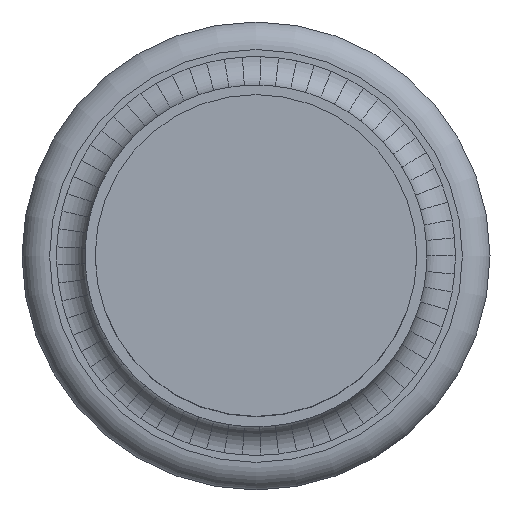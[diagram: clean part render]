
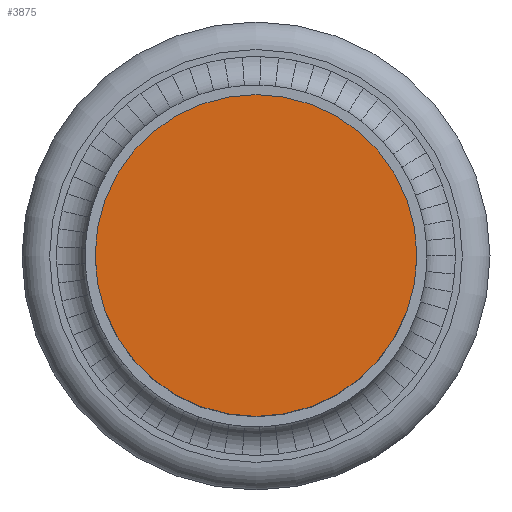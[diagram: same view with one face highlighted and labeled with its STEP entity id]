
A CAD part, top view. The second image highlights one B-rep face of the part: STEP entity #3875.
In plain terms, the highlighted planar face has unit normal (0, 0, 1).
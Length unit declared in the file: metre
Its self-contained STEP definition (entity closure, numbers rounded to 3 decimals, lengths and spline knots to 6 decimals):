
#295=CIRCLE('',#4244,0.00565);
#1409=ORIENTED_EDGE('',*,*,#1966,.T.);
#1966=EDGE_CURVE('',#2316,#2316,#295,.T.);
#2316=VERTEX_POINT('',#6499);
#3365=EDGE_LOOP('',(#1409));
#3586=FACE_BOUND('',#3365,.T.);
#3660=PLANE('',#4246);
#3875=ADVANCED_FACE('',(#3586),#3660,.T.);
#4244=AXIS2_PLACEMENT_3D('',#6498,#5373,#5374);
#4246=AXIS2_PLACEMENT_3D('',#6501,#5377,#5378);
#5373=DIRECTION('',(0.,0.,1.));
#5374=DIRECTION('',(1.,0.,0.));
#5377=DIRECTION('',(0.,0.,1.));
#5378=DIRECTION('',(1.,0.,0.));
#6498=CARTESIAN_POINT('',(0.,0.,0.038));
#6499=CARTESIAN_POINT('',(0.00565,0.,0.038));
#6501=CARTESIAN_POINT('',(0.,0.,0.038));
